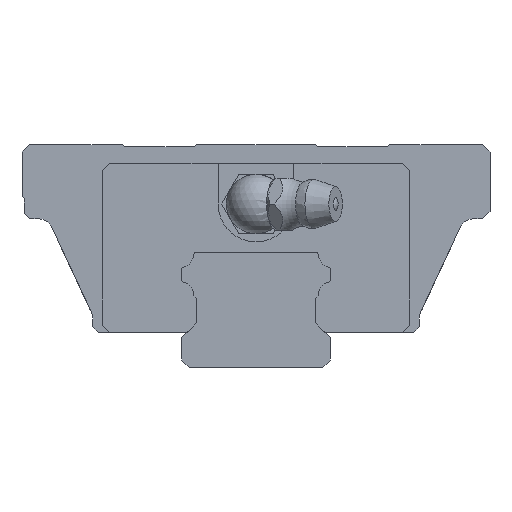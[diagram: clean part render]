
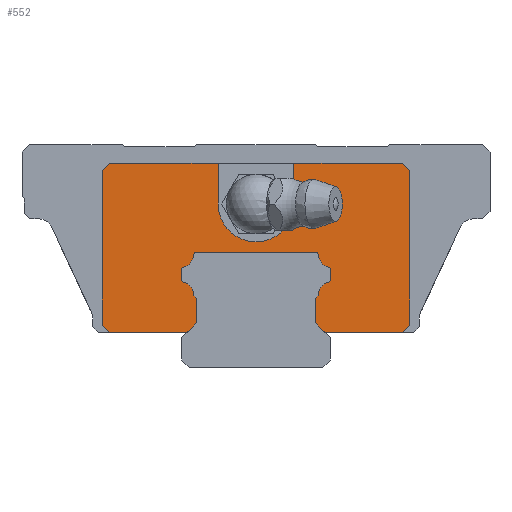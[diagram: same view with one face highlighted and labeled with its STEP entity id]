
A CAD part, front view. The second image highlights one B-rep face of the part: STEP entity #552.
In plain terms, the highlighted planar face has unit normal (0, -1, 0).
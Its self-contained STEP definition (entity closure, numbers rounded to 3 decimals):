
#399=FACE_OUTER_BOUND('',#1646,.T.);
#552=ADVANCED_FACE('',(#399),#752,.T.);
#752=PLANE('',#3870);
#889=LINE('',#5237,#1219);
#891=LINE('',#5242,#1221);
#898=LINE('',#5256,#1228);
#899=LINE('',#5259,#1229);
#900=LINE('',#5260,#1230);
#901=LINE('',#5262,#1231);
#902=LINE('',#5264,#1232);
#903=LINE('',#5266,#1233);
#904=LINE('',#5268,#1234);
#905=LINE('',#5272,#1235);
#906=LINE('',#5274,#1236);
#907=LINE('',#5276,#1237);
#908=LINE('',#5278,#1238);
#909=LINE('',#5280,#1239);
#910=LINE('',#5281,#1240);
#911=LINE('',#5283,#1241);
#912=LINE('',#5285,#1242);
#913=LINE('',#5291,#1243);
#914=LINE('',#5299,#1244);
#915=LINE('',#5307,#1245);
#916=LINE('',#5313,#1246);
#1219=VECTOR('',#4216,1.);
#1221=VECTOR('',#4220,1.);
#1228=VECTOR('',#4229,1.);
#1229=VECTOR('',#4230,1.);
#1230=VECTOR('',#4231,1.);
#1231=VECTOR('',#4232,1.);
#1232=VECTOR('',#4233,1.);
#1233=VECTOR('',#4234,1.);
#1234=VECTOR('',#4235,1.);
#1235=VECTOR('',#4238,1.);
#1236=VECTOR('',#4239,1.);
#1237=VECTOR('',#4240,1.);
#1238=VECTOR('',#4241,1.);
#1239=VECTOR('',#4242,1.);
#1240=VECTOR('',#4243,1.);
#1241=VECTOR('',#4244,1.);
#1242=VECTOR('',#4245,1.);
#1243=VECTOR('',#4250,1.);
#1244=VECTOR('',#4257,1.);
#1245=VECTOR('',#4264,1.);
#1246=VECTOR('',#4269,1.);
#1646=EDGE_LOOP('',(#1923,#1924,#1925,#1926,#1927,#1928,#1929,#1930,#1931,
#1932,#1933,#1934,#1935,#1936,#1937,#1938,#1939,#1940,#1941,#1942,#1943,
#1944,#1945,#1946,#1947,#1948,#1949,#1950,#1951,#1952,#1953,#1954));
#1923=ORIENTED_EDGE('',*,*,#3257,.T.);
#1924=ORIENTED_EDGE('',*,*,#3258,.T.);
#1925=ORIENTED_EDGE('',*,*,#3248,.F.);
#1926=ORIENTED_EDGE('',*,*,#3259,.F.);
#1927=ORIENTED_EDGE('',*,*,#3260,.F.);
#1928=ORIENTED_EDGE('',*,*,#3261,.F.);
#1929=ORIENTED_EDGE('',*,*,#3262,.F.);
#1930=ORIENTED_EDGE('',*,*,#3263,.T.);
#1931=ORIENTED_EDGE('',*,*,#3264,.T.);
#1932=ORIENTED_EDGE('',*,*,#3265,.T.);
#1933=ORIENTED_EDGE('',*,*,#3266,.F.);
#1934=ORIENTED_EDGE('',*,*,#3267,.F.);
#1935=ORIENTED_EDGE('',*,*,#3268,.F.);
#1936=ORIENTED_EDGE('',*,*,#3269,.F.);
#1937=ORIENTED_EDGE('',*,*,#3250,.F.);
#1938=ORIENTED_EDGE('',*,*,#3270,.T.);
#1939=ORIENTED_EDGE('',*,*,#3271,.T.);
#1940=ORIENTED_EDGE('',*,*,#3272,.T.);
#1941=ORIENTED_EDGE('',*,*,#3273,.T.);
#1942=ORIENTED_EDGE('',*,*,#3274,.T.);
#1943=ORIENTED_EDGE('',*,*,#3275,.T.);
#1944=ORIENTED_EDGE('',*,*,#3276,.T.);
#1945=ORIENTED_EDGE('',*,*,#3277,.T.);
#1946=ORIENTED_EDGE('',*,*,#3278,.T.);
#1947=ORIENTED_EDGE('',*,*,#3279,.T.);
#1948=ORIENTED_EDGE('',*,*,#3280,.T.);
#1949=ORIENTED_EDGE('',*,*,#3281,.T.);
#1950=ORIENTED_EDGE('',*,*,#3282,.T.);
#1951=ORIENTED_EDGE('',*,*,#3283,.T.);
#1952=ORIENTED_EDGE('',*,*,#3284,.T.);
#1953=ORIENTED_EDGE('',*,*,#3285,.T.);
#1954=ORIENTED_EDGE('',*,*,#3286,.T.);
#2898=VERTEX_POINT('',#5224);
#2904=VERTEX_POINT('',#5236);
#2905=VERTEX_POINT('',#5240);
#2907=VERTEX_POINT('',#5243);
#2913=VERTEX_POINT('',#5257);
#2914=VERTEX_POINT('',#5258);
#2915=VERTEX_POINT('',#5261);
#2916=VERTEX_POINT('',#5263);
#2917=VERTEX_POINT('',#5265);
#2918=VERTEX_POINT('',#5267);
#2919=VERTEX_POINT('',#5269);
#2920=VERTEX_POINT('',#5271);
#2921=VERTEX_POINT('',#5273);
#2922=VERTEX_POINT('',#5275);
#2923=VERTEX_POINT('',#5277);
#2924=VERTEX_POINT('',#5279);
#2925=VERTEX_POINT('',#5282);
#2926=VERTEX_POINT('',#5284);
#2927=VERTEX_POINT('',#5286);
#2928=VERTEX_POINT('',#5288);
#2929=VERTEX_POINT('',#5290);
#2930=VERTEX_POINT('',#5292);
#2931=VERTEX_POINT('',#5294);
#2932=VERTEX_POINT('',#5296);
#2933=VERTEX_POINT('',#5298);
#2934=VERTEX_POINT('',#5300);
#2935=VERTEX_POINT('',#5302);
#2936=VERTEX_POINT('',#5304);
#2937=VERTEX_POINT('',#5306);
#2938=VERTEX_POINT('',#5308);
#2939=VERTEX_POINT('',#5310);
#2940=VERTEX_POINT('',#5312);
#3248=EDGE_CURVE('',#2904,#2898,#889,.T.);
#3250=EDGE_CURVE('',#2905,#2907,#891,.T.);
#3257=EDGE_CURVE('',#2913,#2914,#898,.T.);
#3258=EDGE_CURVE('',#2914,#2898,#899,.T.);
#3259=EDGE_CURVE('',#2915,#2904,#900,.T.);
#3260=EDGE_CURVE('',#2916,#2915,#901,.T.);
#3261=EDGE_CURVE('',#2917,#2916,#902,.T.);
#3262=EDGE_CURVE('',#2918,#2917,#903,.T.);
#3263=EDGE_CURVE('',#2918,#2919,#904,.T.);
#3264=EDGE_CURVE('',#2919,#2920,#3728,.T.);
#3265=EDGE_CURVE('',#2920,#2921,#905,.T.);
#3266=EDGE_CURVE('',#2922,#2921,#906,.T.);
#3267=EDGE_CURVE('',#2923,#2922,#907,.T.);
#3268=EDGE_CURVE('',#2924,#2923,#908,.T.);
#3269=EDGE_CURVE('',#2907,#2924,#909,.T.);
#3270=EDGE_CURVE('',#2905,#2925,#910,.T.);
#3271=EDGE_CURVE('',#2925,#2926,#911,.T.);
#3272=EDGE_CURVE('',#2926,#2927,#912,.T.);
#3273=EDGE_CURVE('',#2927,#2928,#3729,.T.);
#3274=EDGE_CURVE('',#2928,#2929,#3730,.T.);
#3275=EDGE_CURVE('',#2929,#2930,#913,.T.);
#3276=EDGE_CURVE('',#2930,#2931,#3731,.T.);
#3277=EDGE_CURVE('',#2931,#2932,#3732,.T.);
#3278=EDGE_CURVE('',#2932,#2933,#3733,.T.);
#3279=EDGE_CURVE('',#2933,#2934,#914,.T.);
#3280=EDGE_CURVE('',#2934,#2935,#3734,.T.);
#3281=EDGE_CURVE('',#2935,#2936,#3735,.T.);
#3282=EDGE_CURVE('',#2936,#2937,#3736,.T.);
#3283=EDGE_CURVE('',#2937,#2938,#915,.T.);
#3284=EDGE_CURVE('',#2938,#2939,#3737,.T.);
#3285=EDGE_CURVE('',#2939,#2940,#3738,.T.);
#3286=EDGE_CURVE('',#2940,#2913,#916,.T.);
#3728=CIRCLE('',#3859,5.1);
#3729=CIRCLE('',#3860,1.9);
#3730=CIRCLE('',#3861,0.3);
#3731=CIRCLE('',#3862,0.3);
#3732=CIRCLE('',#3863,1.9);
#3733=CIRCLE('',#3864,0.3);
#3734=CIRCLE('',#3865,0.3);
#3735=CIRCLE('',#3866,1.9);
#3736=CIRCLE('',#3867,0.3);
#3737=CIRCLE('',#3868,0.3);
#3738=CIRCLE('',#3869,1.9);
#3859=AXIS2_PLACEMENT_3D('',#5270,#4236,#4237);
#3860=AXIS2_PLACEMENT_3D('',#5287,#4246,#4247);
#3861=AXIS2_PLACEMENT_3D('',#5289,#4248,#4249);
#3862=AXIS2_PLACEMENT_3D('',#5293,#4251,#4252);
#3863=AXIS2_PLACEMENT_3D('',#5295,#4253,#4254);
#3864=AXIS2_PLACEMENT_3D('',#5297,#4255,#4256);
#3865=AXIS2_PLACEMENT_3D('',#5301,#4258,#4259);
#3866=AXIS2_PLACEMENT_3D('',#5303,#4260,#4261);
#3867=AXIS2_PLACEMENT_3D('',#5305,#4262,#4263);
#3868=AXIS2_PLACEMENT_3D('',#5309,#4265,#4266);
#3869=AXIS2_PLACEMENT_3D('',#5311,#4267,#4268);
#3870=AXIS2_PLACEMENT_3D('',#5314,#4270,#4271);
#4216=DIRECTION('',(-1.,0.,0.));
#4220=DIRECTION('',(-1.,0.,0.));
#4229=DIRECTION('',(0.,0.,-1.));
#4230=DIRECTION('',(0.707,0.,-0.707));
#4231=DIRECTION('',(-0.707,0.,-0.707));
#4232=DIRECTION('',(0.,0.,-1.));
#4233=DIRECTION('',(0.707,0.,-0.707));
#4234=DIRECTION('',(1.,0.,0.));
#4235=DIRECTION('',(0.,0.,-1.));
#4236=DIRECTION('',(0.,1.,0.));
#4237=DIRECTION('',(-1.,0.,0.));
#4238=DIRECTION('',(0.,0.,1.));
#4239=DIRECTION('',(1.,0.,0.));
#4240=DIRECTION('',(0.707,0.,0.707));
#4241=DIRECTION('',(0.,0.,1.));
#4242=DIRECTION('',(-0.707,0.,0.707));
#4243=DIRECTION('',(0.707,0.,0.707));
#4244=DIRECTION('',(0.,0.,1.));
#4245=DIRECTION('',(-0.707,0.,0.707));
#4246=DIRECTION('',(0.,-1.,0.));
#4247=DIRECTION('',(1.,0.,0.));
#4248=DIRECTION('',(0.,1.,0.));
#4249=DIRECTION('',(1.,0.,0.));
#4250=DIRECTION('',(0.,0.,1.));
#4251=DIRECTION('',(0.,1.,0.));
#4252=DIRECTION('',(1.,0.,0.));
#4253=DIRECTION('',(0.,-1.,0.));
#4254=DIRECTION('',(1.,0.,0.));
#4255=DIRECTION('',(0.,1.,0.));
#4256=DIRECTION('',(1.,0.,0.));
#4257=DIRECTION('',(1.,0.,0.));
#4258=DIRECTION('',(0.,1.,0.));
#4259=DIRECTION('',(1.,0.,0.));
#4260=DIRECTION('',(0.,-1.,0.));
#4261=DIRECTION('',(1.,0.,0.));
#4262=DIRECTION('',(0.,1.,0.));
#4263=DIRECTION('',(1.,0.,0.));
#4264=DIRECTION('',(0.,0.,-1.));
#4265=DIRECTION('',(0.,1.,0.));
#4266=DIRECTION('',(1.,0.,0.));
#4267=DIRECTION('',(0.,-1.,0.));
#4268=DIRECTION('',(1.,0.,0.));
#4269=DIRECTION('',(-0.707,0.,-0.707));
#4270=DIRECTION('',(0.,-1.,0.));
#4271=DIRECTION('',(0.,0.,-1.));
#5224=CARTESIAN_POINT('',(9.3,-10.1,4.7));
#5236=CARTESIAN_POINT('',(19.7,-10.1,4.7));
#5237=CARTESIAN_POINT('',(19.7,-10.1,4.7));
#5240=CARTESIAN_POINT('',(-9.3,-10.1,4.7));
#5242=CARTESIAN_POINT('',(19.7,-10.1,4.7));
#5243=CARTESIAN_POINT('',(-19.7,-10.1,4.7));
#5256=CARTESIAN_POINT('',(8.,-10.1,22.));
#5257=CARTESIAN_POINT('',(8.,-10.1,9.3));
#5258=CARTESIAN_POINT('',(8.,-10.1,6.));
#5259=CARTESIAN_POINT('',(-4.,-10.1,18.));
#5260=CARTESIAN_POINT('',(20.7,-10.1,5.7));
#5261=CARTESIAN_POINT('',(20.7,-10.1,5.7));
#5262=CARTESIAN_POINT('',(20.7,-10.1,26.5));
#5263=CARTESIAN_POINT('',(20.7,-10.1,26.5));
#5264=CARTESIAN_POINT('',(19.7,-10.1,27.5));
#5265=CARTESIAN_POINT('',(19.7,-10.1,27.5));
#5266=CARTESIAN_POINT('',(-19.7,-10.1,27.5));
#5267=CARTESIAN_POINT('',(5.1,-10.1,27.5));
#5268=CARTESIAN_POINT('',(5.1,-10.1,27.5));
#5269=CARTESIAN_POINT('',(5.1,-10.1,22.));
#5270=CARTESIAN_POINT('',(0.,-10.1,22.));
#5271=CARTESIAN_POINT('',(-5.1,-10.1,22.));
#5272=CARTESIAN_POINT('',(-5.1,-10.1,22.));
#5273=CARTESIAN_POINT('',(-5.1,-10.1,27.5));
#5274=CARTESIAN_POINT('',(-19.7,-10.1,27.5));
#5275=CARTESIAN_POINT('',(-19.7,-10.1,27.5));
#5276=CARTESIAN_POINT('',(-20.7,-10.1,26.5));
#5277=CARTESIAN_POINT('',(-20.7,-10.1,26.5));
#5278=CARTESIAN_POINT('',(-20.7,-10.1,5.7));
#5279=CARTESIAN_POINT('',(-20.7,-10.1,5.7));
#5280=CARTESIAN_POINT('',(-19.7,-10.1,4.7));
#5281=CARTESIAN_POINT('',(4.,-10.1,18.));
#5282=CARTESIAN_POINT('',(-8.,-10.1,6.));
#5283=CARTESIAN_POINT('',(-8.,-10.1,22.));
#5284=CARTESIAN_POINT('',(-8.,-10.1,9.3));
#5285=CARTESIAN_POINT('',(-10.35,-10.1,11.65));
#5286=CARTESIAN_POINT('',(-8.349,-10.1,9.649));
#5287=CARTESIAN_POINT('',(-10.249,-10.1,9.651));
#5288=CARTESIAN_POINT('',(-9.775,-10.1,11.49));
#5289=CARTESIAN_POINT('',(-9.7,-10.1,11.781));
#5290=CARTESIAN_POINT('',(-10.,-10.1,11.781));
#5291=CARTESIAN_POINT('',(-10.,-10.1,22.));
#5292=CARTESIAN_POINT('',(-10.,-10.1,13.219));
#5293=CARTESIAN_POINT('',(-9.7,-10.1,13.219));
#5294=CARTESIAN_POINT('',(-9.775,-10.1,13.51));
#5295=CARTESIAN_POINT('',(-10.249,-10.1,15.349));
#5296=CARTESIAN_POINT('',(-8.354,-10.1,15.22));
#5297=CARTESIAN_POINT('',(-8.055,-10.1,15.2));
#5298=CARTESIAN_POINT('',(-8.055,-10.1,15.5));
#5299=CARTESIAN_POINT('',(0.,-10.1,15.5));
#5300=CARTESIAN_POINT('',(8.055,-10.1,15.5));
#5301=CARTESIAN_POINT('',(8.055,-10.1,15.2));
#5302=CARTESIAN_POINT('',(8.354,-10.1,15.22));
#5303=CARTESIAN_POINT('',(10.249,-10.1,15.349));
#5304=CARTESIAN_POINT('',(9.775,-10.1,13.51));
#5305=CARTESIAN_POINT('',(9.7,-10.1,13.219));
#5306=CARTESIAN_POINT('',(10.,-10.1,13.219));
#5307=CARTESIAN_POINT('',(10.,-10.1,22.));
#5308=CARTESIAN_POINT('',(10.,-10.1,11.781));
#5309=CARTESIAN_POINT('',(9.7,-10.1,11.781));
#5310=CARTESIAN_POINT('',(9.775,-10.1,11.49));
#5311=CARTESIAN_POINT('',(10.249,-10.1,9.651));
#5312=CARTESIAN_POINT('',(8.349,-10.1,9.649));
#5313=CARTESIAN_POINT('',(10.35,-10.1,11.65));
#5314=CARTESIAN_POINT('',(0.,-10.1,22.));
